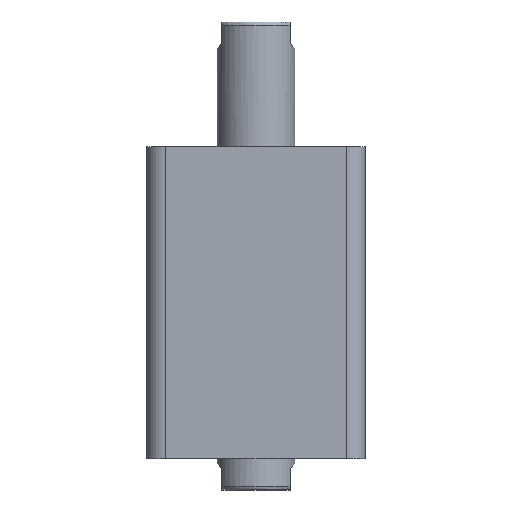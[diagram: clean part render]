
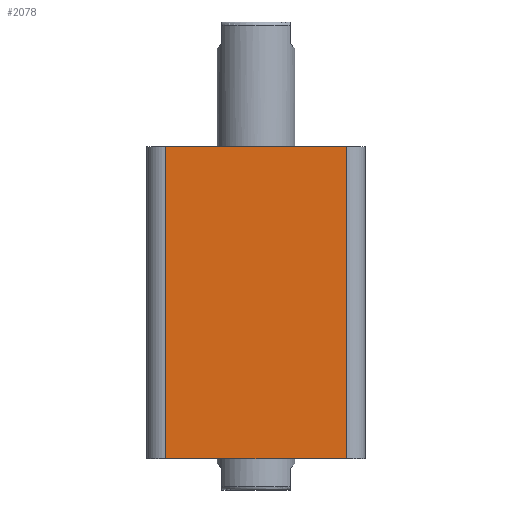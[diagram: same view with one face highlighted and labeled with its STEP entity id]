
A CAD part, front view. The second image highlights one B-rep face of the part: STEP entity #2078.
In plain terms, the highlighted planar face has unit normal (0, -1, 0).
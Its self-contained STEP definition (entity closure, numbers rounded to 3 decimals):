
#37 = AXIS2_PLACEMENT_3D ( 'NONE', #2795, #2799, #2800 ) ;
#453 = EDGE_LOOP ( 'NONE', ( #512, #502, #481, #503 ) ) ;
#481 = ORIENTED_EDGE ( 'NONE', *, *, #3013, .T. ) ;
#502 = ORIENTED_EDGE ( 'NONE', *, *, #3012, .T. ) ;
#503 = ORIENTED_EDGE ( 'NONE', *, *, #3014, .T. ) ;
#512 = ORIENTED_EDGE ( 'NONE', *, *, #3011, .F. ) ;
#778 = CARTESIAN_POINT ( 'NONE',  ( 29., -35., 0. ) ) ;
#791 = CARTESIAN_POINT ( 'NONE',  ( -29., -35., 100. ) ) ;
#1306 = VERTEX_POINT ( 'NONE', #778 ) ;
#1331 = VERTEX_POINT ( 'NONE', #791 ) ;
#1770 = FACE_OUTER_BOUND ( 'NONE', #453, .T. ) ;
#1898 = LINE ( 'NONE', #2310, #1911 ) ;
#1904 = LINE ( 'NONE', #2320, #1907 ) ;
#1906 = LINE ( 'NONE', #2322, #1909 ) ;
#1907 = VECTOR ( 'NONE', #2321, 1000. ) ;
#1909 = VECTOR ( 'NONE', #2323, 1000. ) ;
#1910 = LINE ( 'NONE', #2325, #1913 ) ;
#1911 = VECTOR ( 'NONE', #2324, 1000. ) ;
#1913 = VECTOR ( 'NONE', #2326, 1000. ) ;
#2078 = ADVANCED_FACE ( 'NONE', ( #1770 ), #2797, .F. ) ;
#2102 = CARTESIAN_POINT ( 'NONE',  ( -29., -35., 0. ) ) ;
#2310 = CARTESIAN_POINT ( 'NONE',  ( -35., -35., 0. ) ) ;
#2320 = CARTESIAN_POINT ( 'NONE',  ( -35., -35., 100. ) ) ;
#2321 = DIRECTION ( 'NONE',  ( 1., 0., 0. ) ) ;
#2322 = CARTESIAN_POINT ( 'NONE',  ( -29., -35., 100. ) ) ;
#2323 = DIRECTION ( 'NONE',  ( 0., 0., -1. ) ) ;
#2324 = DIRECTION ( 'NONE',  ( 1., 0., 0. ) ) ;
#2325 = CARTESIAN_POINT ( 'NONE',  ( 29., -35., 100. ) ) ;
#2326 = DIRECTION ( 'NONE',  ( 0., 0., 1. ) ) ;
#2680 = VERTEX_POINT ( 'NONE', #2899 ) ;
#2795 = CARTESIAN_POINT ( 'NONE',  ( -35., -35., 100. ) ) ;
#2797 = PLANE ( 'NONE',  #37 ) ;
#2799 = DIRECTION ( 'NONE',  ( 0., 1., 0. ) ) ;
#2800 = DIRECTION ( 'NONE',  ( 0., 0., 1. ) ) ;
#2899 = CARTESIAN_POINT ( 'NONE',  ( 29., -35., 100. ) ) ;
#3011 = EDGE_CURVE ( 'NONE', #1331, #2680, #1904, .T. ) ;
#3012 = EDGE_CURVE ( 'NONE', #1331, #3213, #1906, .T. ) ;
#3013 = EDGE_CURVE ( 'NONE', #3213, #1306, #1898, .T. ) ;
#3014 = EDGE_CURVE ( 'NONE', #1306, #2680, #1910, .T. ) ;
#3213 = VERTEX_POINT ( 'NONE', #2102 ) ;
